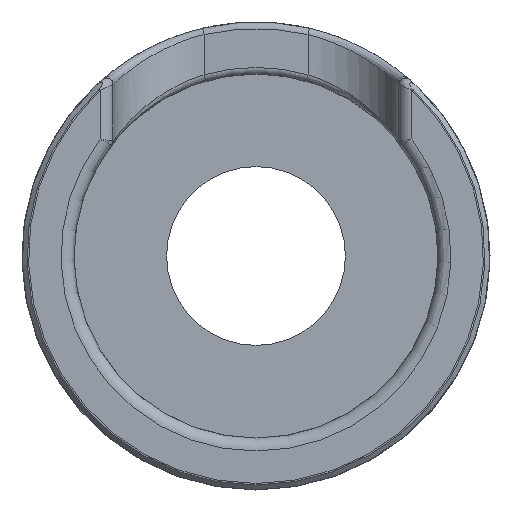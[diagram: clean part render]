
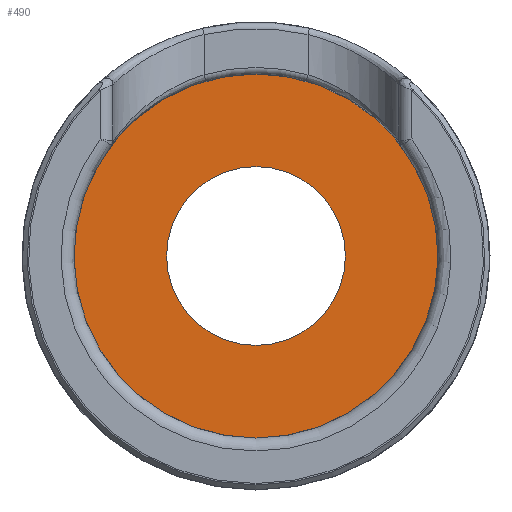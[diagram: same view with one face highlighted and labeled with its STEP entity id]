
A CAD part, front view. The second image highlights one B-rep face of the part: STEP entity #490.
In plain terms, the highlighted planar face has unit normal (0, -1, 0).
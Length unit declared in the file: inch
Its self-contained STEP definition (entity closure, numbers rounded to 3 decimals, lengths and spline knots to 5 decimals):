
#25=FACE_BOUND('',#164,.T.);
#31=PLANE('',#562);
#130=FACE_OUTER_BOUND('',#163,.T.);
#163=EDGE_LOOP('',(#451));
#164=EDGE_LOOP('',(#452));
#180=CIRCLE('',#527,0.7);
#198=CIRCLE('',#561,0.34375);
#225=VERTEX_POINT('',#987);
#239=VERTEX_POINT('',#1378);
#274=EDGE_CURVE('',#225,#225,#180,.T.);
#310=EDGE_CURVE('',#239,#239,#198,.T.);
#451=ORIENTED_EDGE('',*,*,#274,.F.);
#452=ORIENTED_EDGE('',*,*,#310,.T.);
#490=ADVANCED_FACE('',(#130,#25),#31,.T.);
#527=AXIS2_PLACEMENT_3D('',#988,#616,#617);
#561=AXIS2_PLACEMENT_3D('',#1380,#696,#697);
#562=AXIS2_PLACEMENT_3D('',#1381,#698,#699);
#616=DIRECTION('center_axis',(0.,1.,0.));
#617=DIRECTION('ref_axis',(1.,0.,0.));
#696=DIRECTION('center_axis',(0.,1.,0.));
#697=DIRECTION('ref_axis',(1.,0.,0.));
#698=DIRECTION('center_axis',(0.,-1.,0.));
#699=DIRECTION('ref_axis',(0.,0.,-1.));
#987=CARTESIAN_POINT('',(0.,4.3,-0.7));
#988=CARTESIAN_POINT('Origin',(0.,4.3,0.));
#1378=CARTESIAN_POINT('',(0.,4.3,-0.34375));
#1380=CARTESIAN_POINT('Origin',(0.,4.3,0.));
#1381=CARTESIAN_POINT('Origin',(0.,4.3,0.7));
